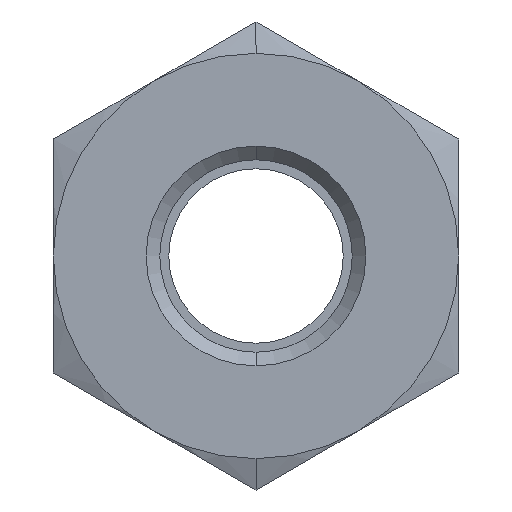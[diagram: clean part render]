
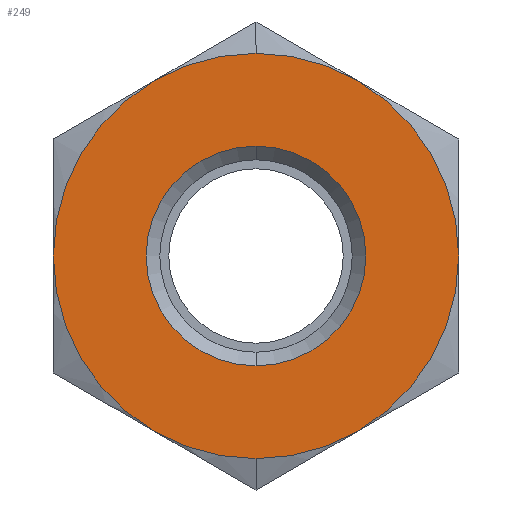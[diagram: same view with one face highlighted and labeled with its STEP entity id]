
A CAD part, left-side view. The second image highlights one B-rep face of the part: STEP entity #249.
In plain terms, the highlighted planar face has unit normal (-1, 0, 0).
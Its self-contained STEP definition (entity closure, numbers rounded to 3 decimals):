
#249=ADVANCED_FACE('',(#507,#508),#509,.F.);
#507=FACE_OUTER_BOUND('',#761,.T.);
#508=FACE_BOUND('',#762,.T.);
#509=PLANE('',#763);
#761=EDGE_LOOP('',(#1365,#1366,#1367,#1368,#1369,#1370,#1371,#1372));
#762=EDGE_LOOP('',(#1373,#1374));
#763=AXIS2_PLACEMENT_3D('',#1375,#1376,#1377);
#1365=ORIENTED_EDGE('',*,*,#1620,.T.);
#1366=ORIENTED_EDGE('',*,*,#1625,.T.);
#1367=ORIENTED_EDGE('',*,*,#1630,.T.);
#1368=ORIENTED_EDGE('',*,*,#1464,.T.);
#1369=ORIENTED_EDGE('',*,*,#1633,.T.);
#1370=ORIENTED_EDGE('',*,*,#1628,.T.);
#1371=ORIENTED_EDGE('',*,*,#1467,.T.);
#1372=ORIENTED_EDGE('',*,*,#1622,.T.);
#1373=ORIENTED_EDGE('',*,*,#1485,.T.);
#1374=ORIENTED_EDGE('',*,*,#1584,.T.);
#1375=CARTESIAN_POINT('',(0.,0.,0.));
#1376=DIRECTION('',(1.0,0.0,0.));
#1377=DIRECTION('',(0.,0.0,-1.0));
#1464=EDGE_CURVE('',#1730,#1732,#1734,.T.);
#1467=EDGE_CURVE('',#1739,#1736,#1740,.T.);
#1485=EDGE_CURVE('',#1769,#1766,#1770,.T.);
#1584=EDGE_CURVE('',#1766,#1769,#1902,.T.);
#1620=EDGE_CURVE('',#1945,#1949,#1951,.T.);
#1622=EDGE_CURVE('',#1736,#1945,#1953,.T.);
#1625=EDGE_CURVE('',#1949,#1955,#1958,.T.);
#1628=EDGE_CURVE('',#1934,#1739,#1961,.T.);
#1630=EDGE_CURVE('',#1955,#1730,#1963,.T.);
#1633=EDGE_CURVE('',#1732,#1934,#1966,.T.);
#1730=VERTEX_POINT('',#2071);
#1732=VERTEX_POINT('',#2074);
#1734=CIRCLE('',#2087,10.25);
#1736=VERTEX_POINT('',#2089);
#1739=VERTEX_POINT('',#2093);
#1740=CIRCLE('',#2094,10.25);
#1766=VERTEX_POINT('',#2155);
#1769=VERTEX_POINT('',#2159);
#1770=CIRCLE('',#2160,5.556);
#1902=CIRCLE('',#2309,5.556);
#1934=VERTEX_POINT('',#2452);
#1945=VERTEX_POINT('',#2499);
#1949=VERTEX_POINT('',#2525);
#1951=CIRCLE('',#2538,10.25);
#1953=CIRCLE('',#2540,10.25);
#1955=VERTEX_POINT('',#2542);
#1958=CIRCLE('',#2556,10.25);
#1961=CIRCLE('',#2570,10.25);
#1963=CIRCLE('',#2572,10.25);
#1966=CIRCLE('',#2586,10.25);
#2071=CARTESIAN_POINT('',(0.,0.,10.25));
#2074=CARTESIAN_POINT('',(0.,5.125,8.877));
#2087=AXIS2_PLACEMENT_3D('',#2715,#2716,#2717);
#2089=CARTESIAN_POINT('',(0.,0.,-10.25));
#2093=CARTESIAN_POINT('',(0.,5.125,-8.877));
#2094=AXIS2_PLACEMENT_3D('',#2719,#2720,#2721);
#2155=CARTESIAN_POINT('',(0.,0.,-5.556));
#2159=CARTESIAN_POINT('',(0.,0.0,5.556));
#2160=AXIS2_PLACEMENT_3D('',#2746,#2747,#2748);
#2309=AXIS2_PLACEMENT_3D('',#2904,#2905,#2906);
#2452=CARTESIAN_POINT('',(0.,10.25,0.));
#2499=CARTESIAN_POINT('',(0.,-5.125,-8.877));
#2525=CARTESIAN_POINT('',(0.0,-10.25,0.0));
#2538=AXIS2_PLACEMENT_3D('',#2923,#2924,#2925);
#2540=AXIS2_PLACEMENT_3D('',#2926,#2927,#2928);
#2542=CARTESIAN_POINT('',(0.,-5.125,8.877));
#2556=AXIS2_PLACEMENT_3D('',#2929,#2930,#2931);
#2570=AXIS2_PLACEMENT_3D('',#2932,#2933,#2934);
#2572=AXIS2_PLACEMENT_3D('',#2935,#2936,#2937);
#2586=AXIS2_PLACEMENT_3D('',#2938,#2939,#2940);
#2715=CARTESIAN_POINT('',(0.0,0.0,0.0));
#2716=DIRECTION('',(-1.0,-0.0,0.));
#2717=DIRECTION('',(0.,0.0,-1.0));
#2719=CARTESIAN_POINT('',(0.0,0.0,0.0));
#2720=DIRECTION('',(-1.0,-0.0,0.));
#2721=DIRECTION('',(0.,0.0,-1.0));
#2746=CARTESIAN_POINT('',(0.0,0.0,0.0));
#2747=DIRECTION('',(1.0,0.0,0.));
#2748=DIRECTION('',(0.,0.0,1.0));
#2904=CARTESIAN_POINT('',(0.0,0.0,0.0));
#2905=DIRECTION('',(1.0,0.0,0.));
#2906=DIRECTION('',(0.,0.0,1.0));
#2923=CARTESIAN_POINT('',(0.0,0.0,0.0));
#2924=DIRECTION('',(-1.0,-0.0,0.));
#2925=DIRECTION('',(0.,0.0,-1.0));
#2926=CARTESIAN_POINT('',(0.0,0.0,0.0));
#2927=DIRECTION('',(-1.0,-0.0,0.));
#2928=DIRECTION('',(0.,0.0,-1.0));
#2929=CARTESIAN_POINT('',(0.0,0.0,0.0));
#2930=DIRECTION('',(-1.0,-0.0,0.));
#2931=DIRECTION('',(0.,0.0,-1.0));
#2932=CARTESIAN_POINT('',(0.0,0.0,0.0));
#2933=DIRECTION('',(-1.0,-0.0,0.));
#2934=DIRECTION('',(0.,0.0,-1.0));
#2935=CARTESIAN_POINT('',(0.0,0.0,0.0));
#2936=DIRECTION('',(-1.0,-0.0,0.));
#2937=DIRECTION('',(0.,0.0,-1.0));
#2938=CARTESIAN_POINT('',(0.0,0.0,0.0));
#2939=DIRECTION('',(-1.0,-0.0,0.));
#2940=DIRECTION('',(0.,0.0,-1.0));
